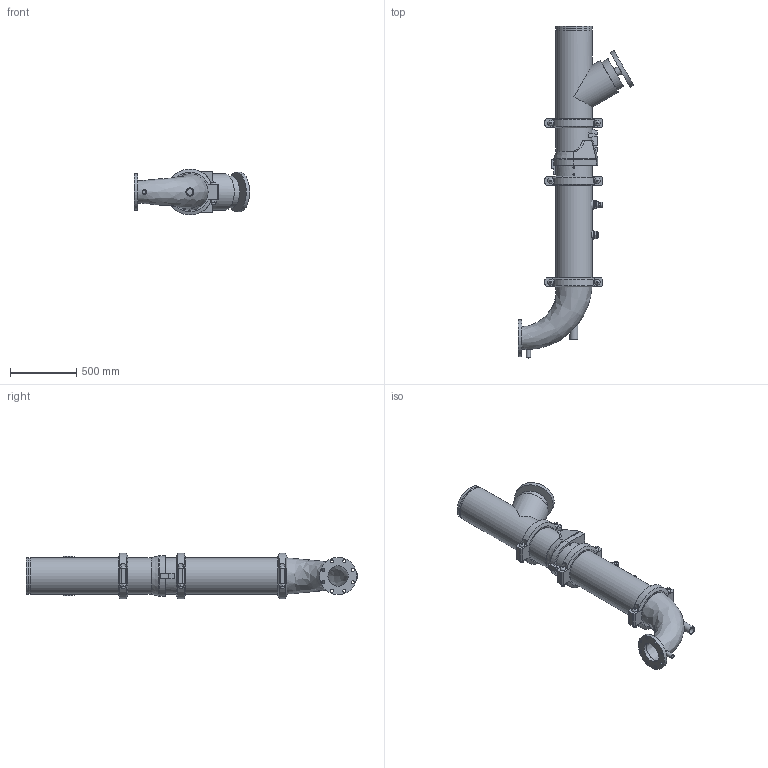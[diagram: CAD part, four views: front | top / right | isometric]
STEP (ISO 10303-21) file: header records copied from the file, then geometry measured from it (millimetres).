
FILE_DESCRIPTION(/* description */ (''),/* implementation_level */ '2;1');
FILE_NAME(/* name */ 'C:\Users\kkamble\Desktop\VIVEK FILES\Victaulic_IPS_Horizontal DVI_CL 150_Series 383 (OGSxFLG)\Victaulic_IPS_Horizontal DVI_CL 150_Series 383 (OGSxFLG).stp',/* time_stamp */ '2022-03-21T10:29:41+06:00',/* author */ ('kkamble'),/* organization */ (''),/* preprocessor_version */ 'ST-DEVELOPER v16.1',/* originating_system */ 'Autodesk Inventor 2016',/* authorisation */ '');
FILE_SCHEMA (('CONFIG_CONTROL_DESIGN'));
Length unit declared in the file: inch
Products named in the file (8): Pipe-13; 789-07; 779-07; 077-15; 924-04; 923-04; R100F-09; Victaulic_IPS_Horizontal DVI_CL 150_Series 383 (OGSxFLG)
Assembly tree (9 placements, depth 2):
  Victaulic_IPS_Horizontal DVI_CL 150_Series 383 (OGSxFLG)
    Pipe-13
    789-07
    779-07
    077-15  x3
    924-04
    923-04
    R100F-09
Bounding box: 869.95 x 2497.26 x 344.9 mm (x, y, z)
Volume: 47123478.4 mm3; surface area: 5694610.5 mm2
Topology: 9 solids, 16 shells, 434 faces, 997 edges, 662 vertices
Faces by surface type: plane 255, cylinder 144, cone 17, bspline 12, torus 6
Full cylindrical faces by diameter (mm): 13.716 x4, 21.336 x2, 22.352 x8, 25.4 x12, 26.67 x3, 27.432 x6, 34.29 x1, 38.608 x1, 45.974 x4, 48.26 x1, 55.626 x2, 60.96 x2, 76.2 x1, 154.051 x1, 237.49 x1, 254.508 x4, 264.16 x3, 268.275 x7, 273.05 x18, 279.4 x1, 299.974 x1
Entity records: 10075 total; most frequent: CARTESIAN_POINT 2737, DIRECTION 1473, ORIENTED_EDGE 1242, EDGE_CURVE 620, AXIS2_PLACEMENT_3D 575, EDGE_LOOP 465, VERTEX_POINT 450, LINE 323
